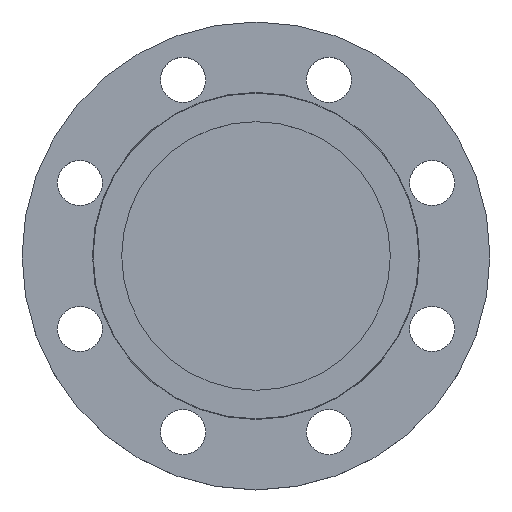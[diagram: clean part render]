
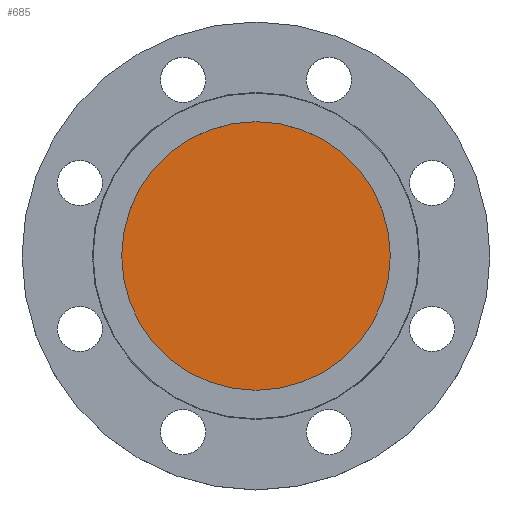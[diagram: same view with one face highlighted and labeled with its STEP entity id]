
A CAD part, top view. The second image highlights one B-rep face of the part: STEP entity #685.
In plain terms, the highlighted planar face has unit normal (0, 0, 1).
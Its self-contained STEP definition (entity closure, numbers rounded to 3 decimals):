
#8 = AXIS2_PLACEMENT_3D ( 'NONE', #360, #358, #355 ) ;
#31 = CIRCLE ( 'NONE', #36, 77.5 ) ;
#36 = AXIS2_PLACEMENT_3D ( 'NONE', #354, #353, #352 ) ;
#206 = DIRECTION ( 'NONE',  ( 1., 0., 0. ) ) ;
#207 = DIRECTION ( 'NONE',  ( 0., 0., 1. ) ) ;
#209 = CARTESIAN_POINT ( 'NONE',  ( 0., 0., -5. ) ) ;
#210 = PLANE ( 'NONE',  #511 ) ;
#212 = FACE_OUTER_BOUND ( 'NONE', #1013, .T. ) ;
#246 = CARTESIAN_POINT ( 'NONE',  ( -77.5, 0., -5. ) ) ;
#266 = CARTESIAN_POINT ( 'NONE',  ( 77.5, 0., -5. ) ) ;
#352 = DIRECTION ( 'NONE',  ( -1., 0., 0. ) ) ;
#353 = DIRECTION ( 'NONE',  ( 0., 0., -1. ) ) ;
#354 = CARTESIAN_POINT ( 'NONE',  ( 0., 0., -5. ) ) ;
#355 = DIRECTION ( 'NONE',  ( -1., 0., 0. ) ) ;
#358 = DIRECTION ( 'NONE',  ( 0., 0., -1. ) ) ;
#360 = CARTESIAN_POINT ( 'NONE',  ( 0., 0., -5. ) ) ;
#491 = EDGE_CURVE ( 'NONE', #577, #603, #977, .T. ) ;
#493 = EDGE_CURVE ( 'NONE', #603, #577, #31, .T. ) ;
#511 = AXIS2_PLACEMENT_3D ( 'NONE', #209, #207, #206 ) ;
#577 = VERTEX_POINT ( 'NONE', #266 ) ;
#603 = VERTEX_POINT ( 'NONE', #246 ) ;
#685 = ADVANCED_FACE ( 'NONE', ( #212 ), #210, .T. ) ;
#776 = ORIENTED_EDGE ( 'NONE', *, *, #493, .F. ) ;
#778 = ORIENTED_EDGE ( 'NONE', *, *, #491, .F. ) ;
#977 = CIRCLE ( 'NONE', #8, 77.5 ) ;
#1013 = EDGE_LOOP ( 'NONE', ( #776, #778 ) ) ;
